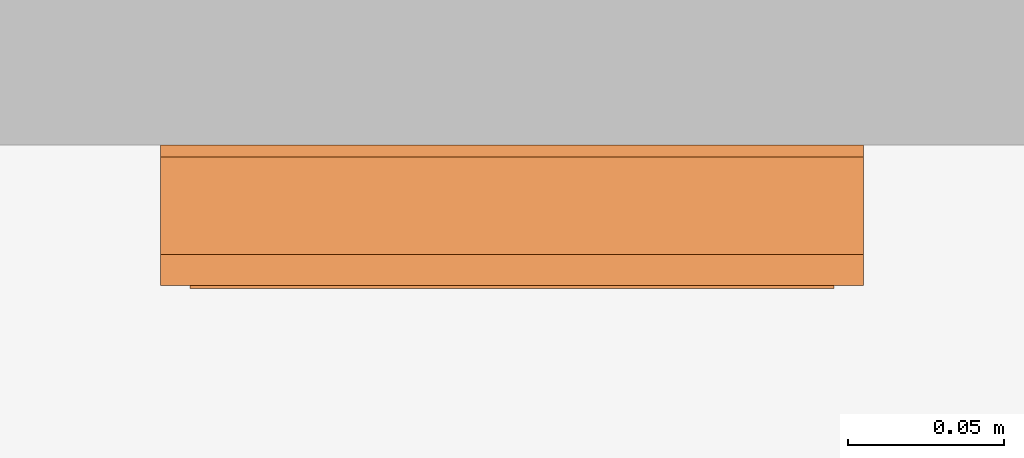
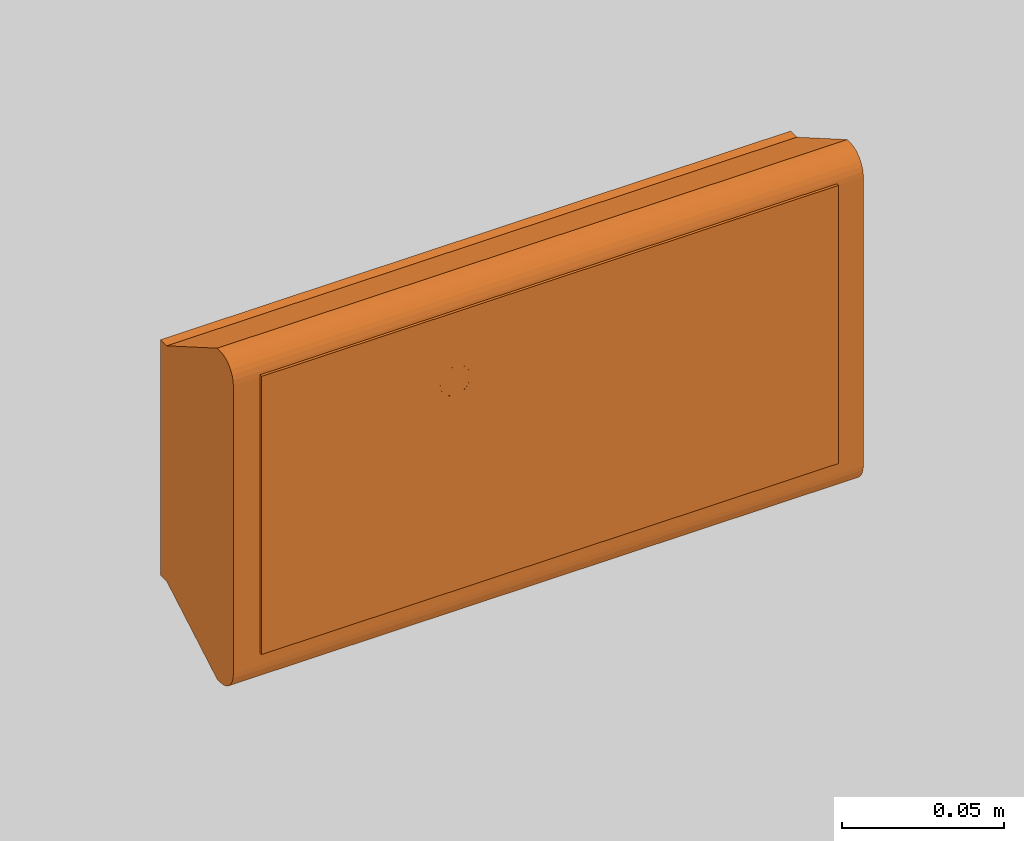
# One storey, part 61 of 197: 1 proxy.
"""IFC2X3 building model written with IfcOpenShell, lengths in metres."""

from ifc_helpers import new_model, entity, si_unit, converted_unit, direction, frame, frame_2d, origin, place, context, subcontext, project, spatial, polyline, circle_curve, parameter, trimmed, segment, composite_curve, circle, outline, extrude, source, transform, mapped, material, material_list, type_object, type_shapes, element, save


model = new_model("IFC2X3")

# Units and contexts
model_context = context("Model", 3, precision=1e-05, world=origin(), true_north=direction((6.123031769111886e-17, 1.0)))
body_context = subcontext(model_context, "Body", "Model", "MODEL_VIEW")
ifc_project = project(units=[si_unit("LENGTHUNIT", "METRE"), converted_unit("PLANEANGLEUNIT", "DEGREE", entity("IfcPlaneAngleMeasure", 0.017453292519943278), si_unit("PLANEANGLEUNIT", "RADIAN"), dimensions=[0, 0, 0, 0, 0, 0, 0]), si_unit("AREAUNIT", "SQUARE_METRE")], contexts=[model_context])

# Site, building, storey
site_placement = place(None, origin())
site = spatial("IfcSite", under=ifc_project, at=site_placement, Name="Default", CompositionType="ELEMENT")
building_placement = place(site_placement, origin())
building = spatial("IfcBuilding", under=site, at=building_placement, CompositionType="ELEMENT")
storey_placement = place(building_placement, origin())
storey = spatial("IfcBuildingStorey", under=building, at=storey_placement, Name="Niveau 0", CompositionType="ELEMENT", Elevation=0.0)

# Proxy
ifc_material_1 = material(Name="BETCE-ENVELOPPE BAES-BLANC")
ifc_material_2 = material(Name="BETCE-ETIQUETTE-VERT 0-193-0")
ifc_material_3 = material(Name="BETCE-VITRE BAES-BLEU")
ifc_material_list = material_list([ifc_material_1, ifc_material_2, ifc_material_3])
building_element_proxy_type = type_object("IfcBuildingElementProxyType", Name="Eclairage de sécurité saillie mur:DROITE", PredefinedType="NOTDEFINED", material=ifc_material_list)
shared_shape = source(origin(), body_context, "Body", "SweptSolid", [
    extrude(outline(polyline([(-0.0289590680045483, -0.03330292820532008), (0.01223113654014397, -0.03330292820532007), (0.029966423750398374, -0.01290734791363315), (0.0031032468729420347, -0.012907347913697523), (0.03240502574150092, 0.020789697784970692), (0.016088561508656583, 0.03497792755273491), (-0.01321321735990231, 0.0012808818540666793), (-0.016943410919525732, 0.02788381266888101), (-0.03467869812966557, 0.007488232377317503), (-0.0289590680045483, -0.03330292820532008)])), frame((0.045353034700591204, -0.04599999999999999, 0.0006823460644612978), z_axis=(0.0, 1.0, 0.0), x_axis=(-0.6561787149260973, 0.0, -0.754605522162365)), (0.0, 0.0, 1.0), 0.001000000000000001),
    extrude(outline(composite_curve([segment(polyline([(-0.031123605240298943, -0.03171408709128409), (0.0021607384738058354, -0.03171408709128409)]), True, "CONTINUOUS"), segment(polyline([(0.0021607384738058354, -0.03171408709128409), (0.0021607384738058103, -0.025875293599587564)]), True, "CONTINUOUS"), segment(polyline([(0.0021607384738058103, -0.025875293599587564), (-0.007251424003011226, -0.01930178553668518)]), True, "CONTINUOUS"), segment(trimmed(circle_curve(frame_2d((0.0017012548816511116, -0.009885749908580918), x_axis=(1.0, 0.0)), 0.012992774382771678), [parameter(180.0000000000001)], [parameter(226.4449980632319)], True, "PARAMETER"), False, "CONTINUOUS"), segment(polyline([(-0.011291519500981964, -0.009885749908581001), (-0.011291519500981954, 0.004993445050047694)]), True, "CONTINUOUS"), segment(trimmed(circle_curve(frame_2d((-0.005807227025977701, 0.004813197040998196), x_axis=(1.0, 0.0)), 0.0054872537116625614), [parameter(132.51873069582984)], [parameter(178.11758141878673)], True, "PARAMETER"), False, "CONTINUOUS"), segment(polyline([(-0.009515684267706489, 0.008857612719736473), (0.0015165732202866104, 0.01612263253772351)]), True, "CONTINUOUS"), segment(trimmed(circle_curve(frame_2d((0.0027344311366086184, 0.013690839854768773), x_axis=(1.0, 0.0)), 0.0027197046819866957), [parameter(32.67226684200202)], [parameter(116.602012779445)], True, "PARAMETER"), False, "CONTINUOUS"), segment(trimmed(circle_curve(frame_2d((0.00273443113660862, 0.013690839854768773), x_axis=(1.0, 0.0)), 0.0027197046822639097), [parameter(308.7425209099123)], [parameter(32.672266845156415)], True, "PARAMETER"), False, "CONTINUOUS"), segment(polyline([(0.004436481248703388, 0.011569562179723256), (-0.005153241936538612, 0.005218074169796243)]), True, "CONTINUOUS"), segment(polyline([(-0.005153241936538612, 0.005218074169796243), (-0.005153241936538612, -0.0031319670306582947)]), True, "CONTINUOUS"), segment(polyline([(-0.005153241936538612, -0.0031319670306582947), (0.006212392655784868, 0.002775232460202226)]), True, "CONTINUOUS"), segment(trimmed(circle_curve(frame_2d((0.013099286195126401, -0.009425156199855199), x_axis=(1.0, 0.0)), 0.014009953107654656), [parameter(96.0248984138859)], [parameter(119.44392355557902)], True, "PARAMETER"), False, "CONTINUOUS"), segment(polyline([(0.011628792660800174, 0.004507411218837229), (0.02589675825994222, 0.006013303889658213)]), True, "CONTINUOUS"), segment(trimmed(circle_curve(frame_2d((0.025833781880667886, 0.0066099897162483), x_axis=(1.0, 0.0)), 0.0006000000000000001), [parameter(276.02489841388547)], [parameter(359.99999999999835)], True, "PARAMETER"), True, "CONTINUOUS"), segment(polyline([(0.026433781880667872, 0.00660998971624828), (0.02643378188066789, 0.01989834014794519)]), True, "CONTINUOUS"), segment(polyline([(0.026433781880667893, 0.01989834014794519), (-0.031123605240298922, 0.01989834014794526)]), True, "CONTINUOUS"), segment(polyline([(-0.031123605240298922, 0.01989834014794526), (-0.031123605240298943, -0.03171408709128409)]), True, "CONTINUOUS")], self_intersect=False), holes=[composite_curve([segment(trimmed(circle_curve(frame_2d((-0.0179604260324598, -0.01596067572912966), x_axis=(1.0, 0.0)), 0.005405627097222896), [parameter(270.0000000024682)], [parameter(2.466990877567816e-09)], True, "PARAMETER"), False, "CONTINUOUS"), segment(trimmed(circle_curve(frame_2d((-0.0179604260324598, -0.01596067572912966), x_axis=(1.0, 0.0)), 0.005405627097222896), [parameter(180.00000000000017)], [parameter(270.0000000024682)], True, "PARAMETER"), False, "CONTINUOUS"), segment(trimmed(circle_curve(frame_2d((-0.017960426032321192, -0.01596067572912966), x_axis=(1.0, 0.0)), 0.005405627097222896), [parameter(89.99999999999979)], [parameter(179.99999999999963)], True, "PARAMETER"), False, "CONTINUOUS"), segment(trimmed(circle_curve(frame_2d((-0.017960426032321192, -0.01596067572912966), x_axis=(1.0, 0.0)), 0.005405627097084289), [parameter(0.0)], [parameter(90.0000000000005)], True, "PARAMETER"), False, "CONTINUOUS")], self_intersect=False)]), frame((-0.04975088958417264, -0.04599999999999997, 0.009386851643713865), z_axis=(0.0, 1.0, 0.0), x_axis=(0.0, 0.0, -1.0)), (0.0, 0.0, 1.0), 0.001000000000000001),
    extrude(outline(composite_curve([segment(polyline([(0.003797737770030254, -0.011174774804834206), (0.010138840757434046, -0.011174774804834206)]), True, "CONTINUOUS"), segment(polyline([(0.010138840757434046, -0.01117477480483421), (0.010138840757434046, 0.03194487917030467)]), True, "CONTINUOUS"), segment(polyline([(0.010138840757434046, 0.03194487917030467), (0.0024869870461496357, 0.03194487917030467)]), True, "CONTINUOUS"), segment(polyline([(0.0024869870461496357, 0.03194487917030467), (0.0024869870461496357, 0.026012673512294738)]), True, "CONTINUOUS"), segment(polyline([(0.0024869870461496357, 0.026012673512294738), (-0.010432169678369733, -0.005661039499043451)]), True, "CONTINUOUS"), segment(trimmed(circle_curve(frame_2d((-0.006850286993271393, -0.007662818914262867), x_axis=(0.0, 1.0)), 0.004103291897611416), [parameter(60.80081853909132)], [parameter(115.83024310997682)], True, "PARAMETER"), True, "CONTINUOUS"), segment(polyline([(-0.010543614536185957, -0.009450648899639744), (-0.005368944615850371, -0.020140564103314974)]), True, "CONTINUOUS"), segment(trimmed(circle_curve(frame_2d((-0.00490073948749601, -0.019779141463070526), x_axis=(0.0, 1.0)), 0.0005914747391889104), [parameter(127.66570843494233)], [parameter(232.33429156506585)], True, "PARAMETER"), True, "CONTINUOUS"), segment(polyline([(-0.0044325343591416, -0.020140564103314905), (0.0017278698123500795, -0.012160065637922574)]), True, "CONTINUOUS"), segment(trimmed(circle_curve(frame_2d((0.003797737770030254, -0.013841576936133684), x_axis=(0.0, 1.0)), 0.0026668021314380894), [parameter(0.0)], [parameter(50.91041679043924)], True, "PARAMETER"), False, "CONTINUOUS")], self_intersect=False)), frame((-0.028175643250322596, -0.046, -0.010169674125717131), z_axis=(0.0, 1.0, 0.0), x_axis=(1.0, 0.0, 0.0)), (0.0, 0.0, 1.0), 0.001000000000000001),
    extrude(outline(composite_curve([segment(polyline([(-0.012872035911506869, -0.01004463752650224), (0.018635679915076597, -0.010044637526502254)]), True, "CONTINUOUS"), segment(polyline([(0.018635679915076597, -0.010044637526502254), (0.02403458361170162, -0.0075201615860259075)]), True, "CONTINUOUS"), segment(polyline([(0.02403458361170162, -0.0075201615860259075), (0.00827312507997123, 0.026187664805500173)]), True, "CONTINUOUS"), segment(polyline([(0.00827312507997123, 0.026187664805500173), (-0.008443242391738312, 0.01837125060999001)]), True, "CONTINUOUS"), segment(polyline([(-0.008443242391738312, 0.01837125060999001), (-0.0010123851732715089, 0.002479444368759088)]), True, "CONTINUOUS"), segment(trimmed(circle_curve(frame_2d((-0.003547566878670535, 0.0012940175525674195), x_axis=(0.9058621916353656, 0.42357253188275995)), 0.002798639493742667), [parameter(287.6867511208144)], [parameter(0.0)], True, "PARAMETER"), False, "CONTINUOUS"), segment(polyline([(-0.0016479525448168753, -0.0007611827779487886), (-0.01338202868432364, -0.008953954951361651)]), True, "CONTINUOUS"), segment(trimmed(circle_curve(frame_2d((-0.01303222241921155, -0.009454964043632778), x_axis=(0.9058621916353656, 0.42357253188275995)), 0.0006110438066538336), [parameter(99.86253453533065)], [parameter(179.99999999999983)], True, "PARAMETER"), True, "CONTINUOUS"), segment(trimmed(circle_curve(frame_2d((-0.01303222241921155, -0.009454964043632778), x_axis=(0.9058621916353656, 0.42357253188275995)), 0.0006110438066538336), [parameter(179.99999999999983)], [parameter(260.13746461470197)], True, "PARAMETER"), True, "CONTINUOUS")], self_intersect=False)), frame((-0.04943108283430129, -0.04599999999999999, -0.023527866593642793), z_axis=(0.0, 1.0, 0.0), x_axis=(0.42357253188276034, 0.0, -0.9058621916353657)), (0.0, 0.0, 1.0), 0.0010000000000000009),
    extrude(outline(polyline([(-0.10299999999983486, -0.05249999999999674), (0.10299999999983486, -0.05249999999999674), (0.10299999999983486, 0.05249999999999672), (-0.10299999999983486, 0.05249999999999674), (-0.10299999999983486, -0.05249999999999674)]), holes=[polyline([(0.08948593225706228, 0.0), (0.06245779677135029, -0.031082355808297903), (0.035429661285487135, -0.031082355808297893), (0.05305670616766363, -0.010811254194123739), (0.008401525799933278, -0.010811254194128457), (0.008401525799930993, 0.01081125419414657), (0.053056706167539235, 0.010811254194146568), (0.03542966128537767, 0.031082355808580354), (0.06245779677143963, 0.03108235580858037), (0.08948593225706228, 0.0)]), composite_curve([segment(polyline([(-0.018036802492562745, -0.039828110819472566), (-0.06964922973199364, -0.039828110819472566)]), True, "CONTINUOUS"), segment(polyline([(-0.06964922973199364, -0.039828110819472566), (-0.06964922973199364, 0.01772927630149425)]), True, "CONTINUOUS"), segment(polyline([(-0.06964922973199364, 0.01772927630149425), (-0.05636087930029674, 0.01772927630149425)]), True, "CONTINUOUS"), segment(trimmed(circle_curve(frame_2d((-0.05636087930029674, 0.01712927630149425), x_axis=(0.0, -1.0)), 0.0006000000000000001), [parameter(96.02489841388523)], [parameter(179.9999999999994)], True, "PARAMETER"), False, "CONTINUOUS"), segment(polyline([(-0.055764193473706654, 0.01719225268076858), (-0.054258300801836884, 0.002924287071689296)]), True, "CONTINUOUS"), segment(trimmed(circle_curve(frame_2d((-0.04032573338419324, 0.004394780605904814), x_axis=(0.0, -1.0)), 0.014009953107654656), [parameter(276.02489841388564)], [parameter(299.44392410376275)], True, "PARAMETER"), True, "CONTINUOUS"), segment(polyline([(-0.05252612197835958, -0.002492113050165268), (-0.04661892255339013, -0.013857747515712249)]), True, "CONTINUOUS"), segment(polyline([(-0.04661892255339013, -0.013857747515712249), (-0.05496896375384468, -0.013857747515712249)]), True, "CONTINUOUS"), segment(polyline([(-0.05496896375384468, -0.013857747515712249), (-0.06132045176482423, -0.004268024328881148)]), True, "CONTINUOUS"), segment(trimmed(circle_curve(frame_2d((-0.06344172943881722, -0.005970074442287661), x_axis=(0.0, -1.0)), 0.0027197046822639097), [parameter(128.7425209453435)], [parameter(212.67226683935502)], True, "PARAMETER"), True, "CONTINUOUS"), segment(trimmed(circle_curve(frame_2d((-0.06344172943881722, -0.005970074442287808), x_axis=(0.0, -1.0)), 0.0027197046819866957), [parameter(212.67226684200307)], [parameter(296.6020127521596)], True, "PARAMETER"), True, "CONTINUOUS"), segment(polyline([(-0.06587352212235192, -0.0071879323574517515), (-0.058608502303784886, -0.018220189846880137)]), True, "CONTINUOUS"), segment(trimmed(circle_curve(frame_2d((-0.05456408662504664, -0.014511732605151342), x_axis=(0.0, -1.0)), 0.0054872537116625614), [parameter(312.5187306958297)], [parameter(358.11758141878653)], True, "PARAMETER"), True, "CONTINUOUS"), segment(polyline([(-0.05474433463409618, -0.019996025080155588), (-0.03986513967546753, -0.01999602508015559)]), True, "CONTINUOUS"), segment(trimmed(circle_curve(frame_2d((-0.03986513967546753, -0.007003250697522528), x_axis=(0.0, -1.0)), 0.012992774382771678), [parameter(0.0)], [parameter(46.44499806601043)], True, "PARAMETER"), True, "CONTINUOUS"), segment(polyline([(-0.030449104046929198, -0.015955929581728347), (-0.02387559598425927, -0.00654376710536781)]), True, "CONTINUOUS"), segment(polyline([(-0.02387559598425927, -0.00654376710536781), (-0.018036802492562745, -0.00654376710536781)]), True, "CONTINUOUS"), segment(polyline([(-0.018036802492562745, -0.00654376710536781), (-0.018036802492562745, -0.039828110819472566)]), True, "CONTINUOUS")], self_intersect=False), composite_curve([segment(polyline([(-0.06964922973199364, 0.042796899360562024), (-0.03243846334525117, 0.042796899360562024)]), True, "CONTINUOUS"), segment(polyline([(-0.03243846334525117, 0.042796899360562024), (-0.03243846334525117, 0.036836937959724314)]), True, "CONTINUOUS"), segment(polyline([(-0.03243846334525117, 0.036836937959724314), (-0.04578426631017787, 0.00829528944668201)]), True, "CONTINUOUS"), segment(trimmed(circle_curve(frame_2d((-0.04638627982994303, 0.008399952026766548), x_axis=(0.0, -1.0)), 0.0006110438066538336), [parameter(0.0)], [parameter(80.13746548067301)], True, "PARAMETER"), False, "CONTINUOUS"), segment(trimmed(circle_curve(frame_2d((-0.04638627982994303, 0.008399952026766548), x_axis=(0.0, -1.0)), 0.0006110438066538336), [parameter(279.86253453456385)], [parameter(0.0)], True, "PARAMETER"), False, "CONTINUOUS"), segment(polyline([(-0.046988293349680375, 0.00829528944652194), (-0.04943958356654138, 0.02239497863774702)]), True, "CONTINUOUS"), segment(trimmed(circle_curve(frame_2d((-0.05210593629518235, 0.02154471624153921), x_axis=(0.0, -1.0)), 0.002798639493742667), [parameter(107.68675112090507)], [parameter(179.99999999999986)], True, "PARAMETER"), True, "CONTINUOUS"), segment(polyline([(-0.052105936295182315, 0.024343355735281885), (-0.06964922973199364, 0.024343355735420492)]), True, "CONTINUOUS"), segment(polyline([(-0.06964922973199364, 0.024343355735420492), (-0.06964922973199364, 0.042796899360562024)]), True, "CONTINUOUS")], self_intersect=False), composite_curve([segment(polyline([(-0.01803680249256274, 0.042796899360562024), (-0.018036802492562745, -0.0003227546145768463)]), True, "CONTINUOUS"), segment(polyline([(-0.018036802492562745, -0.0003227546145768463), (-0.024377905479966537, -0.00032275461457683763)]), True, "CONTINUOUS"), segment(trimmed(circle_curve(frame_2d((-0.024377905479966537, -0.0029895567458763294), x_axis=(0.0, -1.0)), 0.0026668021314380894), [parameter(179.99999999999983)], [parameter(230.91041692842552)], True, "PARAMETER"), True, "CONTINUOUS"), segment(polyline([(-0.026447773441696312, -0.0013080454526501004), (-0.03260817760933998, -0.009288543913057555)]), True, "CONTINUOUS"), segment(trimmed(circle_curve(frame_2d((-0.033076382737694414, -0.008927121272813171), x_axis=(0.0, -1.0)), 0.0005914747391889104), [parameter(307.66570843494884)], [parameter(52.33429156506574)], True, "PARAMETER"), False, "CONTINUOUS"), segment(polyline([(-0.033544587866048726, -0.009288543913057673), (-0.03871925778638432, 0.0014013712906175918)]), True, "CONTINUOUS"), segment(trimmed(circle_curve(frame_2d((-0.03502593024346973, 0.003189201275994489), x_axis=(0.0, -1.0)), 0.004103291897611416), [parameter(240.80081810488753)], [parameter(295.83024310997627)], True, "PARAMETER"), False, "CONTINUOUS"), segment(polyline([(-0.03860781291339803, 0.005190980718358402), (-0.025688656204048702, 0.03686469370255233)]), True, "CONTINUOUS"), segment(polyline([(-0.025688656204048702, 0.03686469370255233), (-0.0256886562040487, 0.042796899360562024)]), True, "CONTINUOUS"), segment(polyline([(-0.0256886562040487, 0.042796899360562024), (-0.01803680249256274, 0.042796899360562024)]), True, "CONTINUOUS")], self_intersect=False)]), frame((0.0, -0.046, 0.0006823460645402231), z_axis=(0.0, 1.0, 0.0), x_axis=(1.0, 0.0, 0.0)), (0.0, 0.0, 1.0), 0.001000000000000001),
    extrude(circle(Radius=0.005405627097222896, at=frame_2d((2.3560819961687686e-14, 0.0), x_axis=(1.0, 0.0))), frame((-0.03379021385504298, -0.046, 0.027347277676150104), z_axis=(0.0, 1.0, 0.0), x_axis=(0.0, 0.0, 1.0)), (0.0, 0.0, 1.0), 0.001000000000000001),
    extrude(outline(composite_curve([segment(trimmed(circle_curve(frame_2d((-0.0020000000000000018, -0.054499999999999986), x_axis=(1.0, 0.0)), 0.008), [parameter(270.0000000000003)], [parameter(3.5622212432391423e-13)], True, "PARAMETER"), True, "CONTINUOUS"), segment(polyline([(0.005999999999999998, -0.05449999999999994), (0.005999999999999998, 0.05450000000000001)]), True, "CONTINUOUS"), segment(trimmed(circle_curve(frame_2d((-0.0020000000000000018, 0.05450000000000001), x_axis=(1.0, 0.0)), 0.008), [parameter(359.9999999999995)], [parameter(89.99999999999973)], True, "PARAMETER"), True, "CONTINUOUS"), segment(polyline([(-0.001999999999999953, 0.06250000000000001), (-0.003999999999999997, 0.06250000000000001)]), True, "CONTINUOUS"), segment(polyline([(-0.003999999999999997, 0.06250000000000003), (-0.003999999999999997, -0.062499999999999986)]), True, "CONTINUOUS"), segment(polyline([(-0.003999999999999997, -0.0625), (-0.0020000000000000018, -0.0625)]), True, "CONTINUOUS")], self_intersect=False)), frame((-0.1125, -0.039, -0.0019999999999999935), z_axis=(1.0, 0.0, 0.0), x_axis=(0.0, -1.0, 0.0)), (0.0, 0.0, 1.0), 0.22499999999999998),
    extrude(outline(polyline([(-0.0625, -0.02205897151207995), (0.0625, -0.02205897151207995), (0.04449999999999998, 0.009117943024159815), (0.04449999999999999, 0.01294102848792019), (-0.04449999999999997, 0.012941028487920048), (-0.04449999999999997, 0.009117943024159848), (-0.0625, -0.02205897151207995)])), frame((-0.1125, -0.012941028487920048, -0.002000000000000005), z_axis=(1.0, 0.0, 0.0), x_axis=(0.0, 0.0, -1.0)), (0.0, 0.0, 1.0), 0.225),
])
type_shapes(building_element_proxy_type, [shared_shape])
proxy_placement = place(storey_placement, frame((-487.65497282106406, 111.79035524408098, 1.0)))
element("IfcBuildingElementProxy", 1, at=proxy_placement, inside=storey, type_object=building_element_proxy_type, material=ifc_material_list, Name="Eclairage de sécurité saillie mur:DROITE", ObjectType="Eclairage de sécurité saillie mur:DROITE", context=body_context, shape_type="MappedRepresentation", body=[
    mapped(shared_shape, transform((0.0, 0.0, 0.0), scale=1.0)),
])

save(model, "model.ifc")
